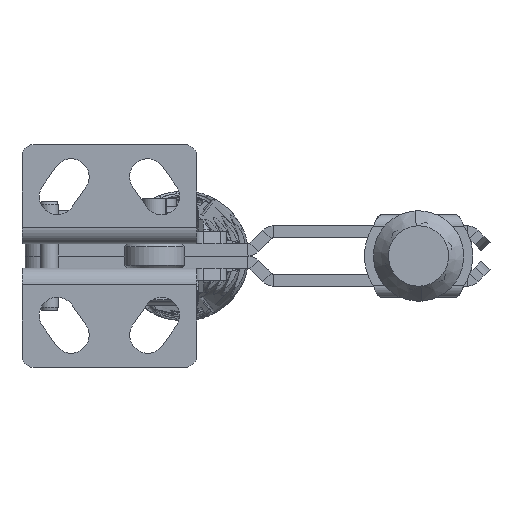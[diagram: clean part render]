
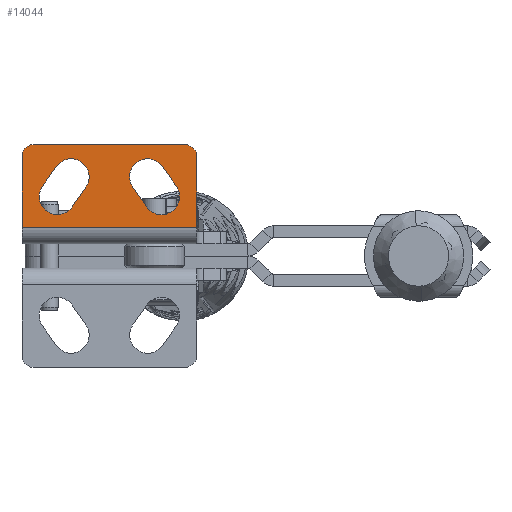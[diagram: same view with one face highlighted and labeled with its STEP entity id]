
A CAD part, front view. The second image highlights one B-rep face of the part: STEP entity #14044.
In plain terms, the highlighted planar face has unit normal (0, -1, 0).
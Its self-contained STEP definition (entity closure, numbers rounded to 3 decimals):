
#234 = DIRECTION ( 'NONE',  ( 0., 1., 0. ) ) ;
#327 = CARTESIAN_POINT ( 'NONE',  ( 21., -32.244, 14.502 ) ) ;
#618 = EDGE_CURVE ( 'NONE', #26764, #8411, #12519, .T. ) ;
#687 = AXIS2_PLACEMENT_3D ( 'NONE', #28806, #6149, #26025 ) ;
#949 = VERTEX_POINT ( 'NONE', #6876 ) ;
#1364 = DIRECTION ( 'NONE',  ( 1., 0., 0. ) ) ;
#2012 = VERTEX_POINT ( 'NONE', #4428 ) ;
#2026 = CARTESIAN_POINT ( 'NONE',  ( 21., -32.244, 16.502 ) ) ;
#2830 = AXIS2_PLACEMENT_3D ( 'NONE', #30856, #20549, #3614 ) ;
#2944 = CARTESIAN_POINT ( 'NONE',  ( 17.31, -32.244, 12.861 ) ) ;
#3030 = CARTESIAN_POINT ( 'NONE',  ( -0.31, -32.244, 12.861 ) ) ;
#3300 = AXIS2_PLACEMENT_3D ( 'NONE', #13879, #11099, #18670 ) ;
#3540 = EDGE_CURVE ( 'NONE', #9102, #5525, #30590, .T. ) ;
#3614 = DIRECTION ( 'NONE',  ( 1., 0., 0. ) ) ;
#3975 = DIRECTION ( 'NONE',  ( 0., 1., 0. ) ) ;
#4106 = CARTESIAN_POINT ( 'NONE',  ( 2.147, -32.244, 11.14 ) ) ;
#4428 = CARTESIAN_POINT ( 'NONE',  ( 4.605, -32.244, 9.419 ) ) ;
#4480 = LINE ( 'NONE', #2026, #10680 ) ;
#4968 = CARTESIAN_POINT ( 'NONE',  ( -4., -32.244, 16.502 ) ) ;
#5067 = LINE ( 'NONE', #22172, #17788 ) ;
#5144 = DIRECTION ( 'NONE',  ( 1., 0., 0. ) ) ;
#5163 = CARTESIAN_POINT ( 'NONE',  ( 11.853, -32.244, 11.14 ) ) ;
#5525 = VERTEX_POINT ( 'NONE', #7937 ) ;
#5959 = DIRECTION ( 'NONE',  ( 0., 0., 1. ) ) ;
#6149 = DIRECTION ( 'NONE',  ( 0., 1., 0. ) ) ;
#6342 = VERTEX_POINT ( 'NONE', #27644 ) ;
#6393 = EDGE_CURVE ( 'NONE', #949, #12224, #7440, .T. ) ;
#6681 = FACE_OUTER_BOUND ( 'NONE', #28963, .T. ) ;
#6876 = CARTESIAN_POINT ( 'NONE',  ( -2.605, -32.244, 9.584 ) ) ;
#7294 = VERTEX_POINT ( 'NONE', #24912 ) ;
#7324 = LINE ( 'NONE', #12439, #30510 ) ;
#7385 = DIRECTION ( 'NONE',  ( 1., 0., 0. ) ) ;
#7440 = LINE ( 'NONE', #12710, #19087 ) ;
#7638 = EDGE_CURVE ( 'NONE', #26425, #26764, #8071, .T. ) ;
#7937 = CARTESIAN_POINT ( 'NONE',  ( -6., -32.244, 14.502 ) ) ;
#7984 = VECTOR ( 'NONE', #22112, 1000. ) ;
#8071 = CIRCLE ( 'NONE', #2830, 3. ) ;
#8147 = ORIENTED_EDGE ( 'NONE', *, *, #8460, .F. ) ;
#8411 = VERTEX_POINT ( 'NONE', #16032 ) ;
#8460 = EDGE_CURVE ( 'NONE', #5525, #26523, #9077, .T. ) ;
#8549 = EDGE_CURVE ( 'NONE', #6342, #15816, #27421, .T. ) ;
#8883 = CIRCLE ( 'NONE', #31407, 2. ) ;
#8914 = CARTESIAN_POINT ( 'NONE',  ( -0.147, -32.244, 7.863 ) ) ;
#8956 = VECTOR ( 'NONE', #24675, 1000. ) ;
#9077 = CIRCLE ( 'NONE', #687, 2. ) ;
#9102 = VERTEX_POINT ( 'NONE', #28153 ) ;
#9784 = LINE ( 'NONE', #22273, #7984 ) ;
#9823 = CARTESIAN_POINT ( 'NONE',  ( 21., -32.244, 16.502 ) ) ;
#9899 = CARTESIAN_POINT ( 'NONE',  ( 19.605, -32.244, 9.584 ) ) ;
#9923 = CARTESIAN_POINT ( 'NONE',  ( -3.147, -32.244, 7.863 ) ) ;
#10153 = LINE ( 'NONE', #18039, #18139 ) ;
#10184 = ORIENTED_EDGE ( 'NONE', *, *, #22646, .T. ) ;
#10226 = EDGE_CURVE ( 'NONE', #17097, #9102, #7324, .T. ) ;
#10680 = VECTOR ( 'NONE', #28947, 1000. ) ;
#10738 = CARTESIAN_POINT ( 'NONE',  ( -6., -32.244, -27.498 ) ) ;
#10968 = ORIENTED_EDGE ( 'NONE', *, *, #28476, .T. ) ;
#11099 = DIRECTION ( 'NONE',  ( 0., 1., 0. ) ) ;
#11435 = CARTESIAN_POINT ( 'NONE',  ( 23., -32.244, 2.737 ) ) ;
#12224 = VERTEX_POINT ( 'NONE', #3030 ) ;
#12282 = ORIENTED_EDGE ( 'NONE', *, *, #618, .T. ) ;
#12434 = CARTESIAN_POINT ( 'NONE',  ( 21., -32.244, 14.502 ) ) ;
#12439 = CARTESIAN_POINT ( 'NONE',  ( 21., -32.244, 2.737 ) ) ;
#12519 = LINE ( 'NONE', #9899, #8956 ) ;
#12622 = DIRECTION ( 'NONE',  ( -0.574, 0., 0.819 ) ) ;
#12710 = CARTESIAN_POINT ( 'NONE',  ( -0.31, -32.244, 12.861 ) ) ;
#12823 = EDGE_CURVE ( 'NONE', #28236, #16844, #10153, .T. ) ;
#13879 = CARTESIAN_POINT ( 'NONE',  ( -0.147, -32.244, 7.863 ) ) ;
#14044 = ADVANCED_FACE ( 'NONE', ( #19516, #27194, #6681 ), #22453, .F. ) ;
#15502 = CIRCLE ( 'NONE', #22325, 3. ) ;
#15816 = VERTEX_POINT ( 'NONE', #9923 ) ;
#15824 = ORIENTED_EDGE ( 'NONE', *, *, #7638, .T. ) ;
#15997 = CARTESIAN_POINT ( 'NONE',  ( 14.69, -32.244, 6.143 ) ) ;
#16032 = CARTESIAN_POINT ( 'NONE',  ( 19.605, -32.244, 9.584 ) ) ;
#16369 = ORIENTED_EDGE ( 'NONE', *, *, #28427, .F. ) ;
#16497 = CIRCLE ( 'NONE', #27495, 3. ) ;
#16844 = VERTEX_POINT ( 'NONE', #21868 ) ;
#17097 = VERTEX_POINT ( 'NONE', #11435 ) ;
#17788 = VECTOR ( 'NONE', #30185, 1000. ) ;
#17907 = EDGE_CURVE ( 'NONE', #25297, #7294, #8883, .T. ) ;
#18039 = CARTESIAN_POINT ( 'NONE',  ( 14.69, -32.244, 6.143 ) ) ;
#18139 = VECTOR ( 'NONE', #12622, 1000. ) ;
#18670 = DIRECTION ( 'NONE',  ( 1., 0., 0. ) ) ;
#18959 = DIRECTION ( 'NONE',  ( 0., 1., 0. ) ) ;
#19087 = VECTOR ( 'NONE', #20277, 1000. ) ;
#19426 = CARTESIAN_POINT ( 'NONE',  ( 17.147, -32.244, 7.863 ) ) ;
#19516 = FACE_BOUND ( 'NONE', #29852, .T. ) ;
#19759 = ORIENTED_EDGE ( 'NONE', *, *, #6393, .T. ) ;
#20032 = EDGE_CURVE ( 'NONE', #12224, #2012, #31978, .T. ) ;
#20155 = ORIENTED_EDGE ( 'NONE', *, *, #8549, .T. ) ;
#20277 = DIRECTION ( 'NONE',  ( 0.574, 0., 0.819 ) ) ;
#20371 = DIRECTION ( 'NONE',  ( 0., 1., 0. ) ) ;
#20549 = DIRECTION ( 'NONE',  ( 0., 1., 0. ) ) ;
#20655 = ORIENTED_EDGE ( 'NONE', *, *, #25488, .T. ) ;
#21868 = CARTESIAN_POINT ( 'NONE',  ( 12.395, -32.244, 9.419 ) ) ;
#22112 = DIRECTION ( 'NONE',  ( -0.574, 0., -0.819 ) ) ;
#22172 = CARTESIAN_POINT ( 'NONE',  ( 23., -32.244, -14.065 ) ) ;
#22188 = VECTOR ( 'NONE', #5959, 1000. ) ;
#22273 = CARTESIAN_POINT ( 'NONE',  ( 4.605, -32.244, 9.419 ) ) ;
#22325 = AXIS2_PLACEMENT_3D ( 'NONE', #25817, #234, #5144 ) ;
#22453 = PLANE ( 'NONE',  #28705 ) ;
#22646 = EDGE_CURVE ( 'NONE', #8411, #28236, #23657, .T. ) ;
#22803 = ORIENTED_EDGE ( 'NONE', *, *, #17907, .F. ) ;
#23657 = CIRCLE ( 'NONE', #26813, 3. ) ;
#23844 = EDGE_CURVE ( 'NONE', #7294, #17097, #5067, .T. ) ;
#24675 = DIRECTION ( 'NONE',  ( 0.574, 0., -0.819 ) ) ;
#24912 = CARTESIAN_POINT ( 'NONE',  ( 23., -32.244, 14.502 ) ) ;
#25297 = VERTEX_POINT ( 'NONE', #9823 ) ;
#25488 = EDGE_CURVE ( 'NONE', #2012, #6342, #9784, .T. ) ;
#25572 = ORIENTED_EDGE ( 'NONE', *, *, #30674, .T. ) ;
#25612 = ORIENTED_EDGE ( 'NONE', *, *, #12823, .T. ) ;
#25817 = CARTESIAN_POINT ( 'NONE',  ( 14.853, -32.244, 11.14 ) ) ;
#26025 = DIRECTION ( 'NONE',  ( 1., 0., 0. ) ) ;
#26141 = ORIENTED_EDGE ( 'NONE', *, *, #10226, .F. ) ;
#26425 = VERTEX_POINT ( 'NONE', #5163 ) ;
#26484 = DIRECTION ( 'NONE',  ( 1., 0., 0. ) ) ;
#26523 = VERTEX_POINT ( 'NONE', #4968 ) ;
#26739 = EDGE_LOOP ( 'NONE', ( #28010, #20655, #20155, #10968, #19759 ) ) ;
#26764 = VERTEX_POINT ( 'NONE', #2944 ) ;
#26813 = AXIS2_PLACEMENT_3D ( 'NONE', #19426, #3975, #1364 ) ;
#27194 = FACE_BOUND ( 'NONE', #26739, .T. ) ;
#27421 = CIRCLE ( 'NONE', #3300, 3. ) ;
#27495 = AXIS2_PLACEMENT_3D ( 'NONE', #8914, #18959, #26484 ) ;
#27644 = CARTESIAN_POINT ( 'NONE',  ( 2.31, -32.244, 6.143 ) ) ;
#27845 = DIRECTION ( 'NONE',  ( -1., 0., 0. ) ) ;
#28010 = ORIENTED_EDGE ( 'NONE', *, *, #20032, .T. ) ;
#28153 = CARTESIAN_POINT ( 'NONE',  ( -6., -32.244, 2.737 ) ) ;
#28236 = VERTEX_POINT ( 'NONE', #15997 ) ;
#28427 = EDGE_CURVE ( 'NONE', #26523, #25297, #4480, .T. ) ;
#28476 = EDGE_CURVE ( 'NONE', #15816, #949, #16497, .T. ) ;
#28705 = AXIS2_PLACEMENT_3D ( 'NONE', #12434, #29179, #32116 ) ;
#28806 = CARTESIAN_POINT ( 'NONE',  ( -4., -32.244, 14.502 ) ) ;
#28947 = DIRECTION ( 'NONE',  ( 1., 0., 0. ) ) ;
#28963 = EDGE_LOOP ( 'NONE', ( #26141, #31178, #22803, #16369, #8147, #31876 ) ) ;
#29179 = DIRECTION ( 'NONE',  ( 0., 1., 0. ) ) ;
#29390 = DIRECTION ( 'NONE',  ( 0., 1., 0. ) ) ;
#29852 = EDGE_LOOP ( 'NONE', ( #10184, #25612, #25572, #15824, #12282 ) ) ;
#30185 = DIRECTION ( 'NONE',  ( 0., 0., -1. ) ) ;
#30412 = AXIS2_PLACEMENT_3D ( 'NONE', #4106, #29390, #32161 ) ;
#30510 = VECTOR ( 'NONE', #27845, 1000. ) ;
#30590 = LINE ( 'NONE', #10738, #22188 ) ;
#30674 = EDGE_CURVE ( 'NONE', #16844, #26425, #15502, .T. ) ;
#30856 = CARTESIAN_POINT ( 'NONE',  ( 14.853, -32.244, 11.14 ) ) ;
#31178 = ORIENTED_EDGE ( 'NONE', *, *, #23844, .F. ) ;
#31407 = AXIS2_PLACEMENT_3D ( 'NONE', #327, #20371, #7385 ) ;
#31876 = ORIENTED_EDGE ( 'NONE', *, *, #3540, .F. ) ;
#31978 = CIRCLE ( 'NONE', #30412, 3. ) ;
#32116 = DIRECTION ( 'NONE',  ( 0., 0., -1. ) ) ;
#32161 = DIRECTION ( 'NONE',  ( 1., 0., 0. ) ) ;
